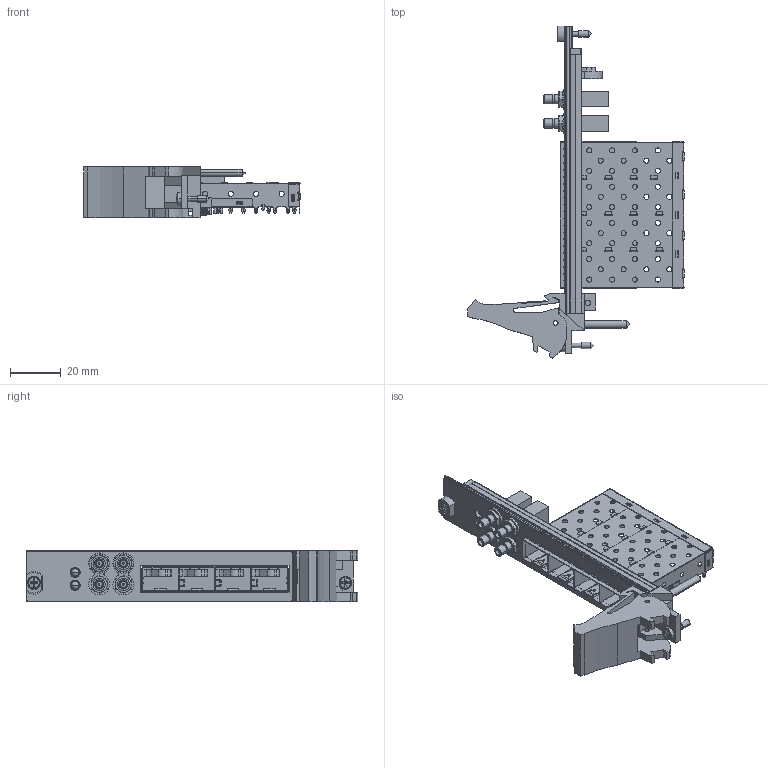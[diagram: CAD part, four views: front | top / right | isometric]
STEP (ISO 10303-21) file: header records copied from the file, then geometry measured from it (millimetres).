
FILE_DESCRIPTION((''),'2;1');
FILE_NAME('CD_PXIE_6592R','2016-04-19T',('jsalinas'),(''),'CREO PARAMETRIC BY PTC INC, 2015380','CREO PARAMETRIC BY PTC INC, 2015380','');
FILE_SCHEMA(('CONFIG_CONTROL_DESIGN'));
Length unit declared in the file: inch
Products named in the file (1): CD_PXIE_6592R
Bounding box: 85.12 x 130.5 x 20.31 mm (x, y, z)
Volume: 18931.4 mm3; surface area: 33191.9 mm2
Topology: 5 solids, 5 shells, 3094 faces, 9195 edges, 6046 vertices
Faces by surface type: plane 1615, cylinder 1386, cone 40, sphere 22, torus 20, bspline 9, extrusion 2
Entity records: 109961 total; most frequent: CARTESIAN_POINT 24106, ORIENTED_EDGE 18370, DIRECTION 17857, EDGE_CURVE 9185, VERTEX_POINT 6046, VECTOR 6031, LINE 6029, AXIS2_PLACEMENT_3D 5913
